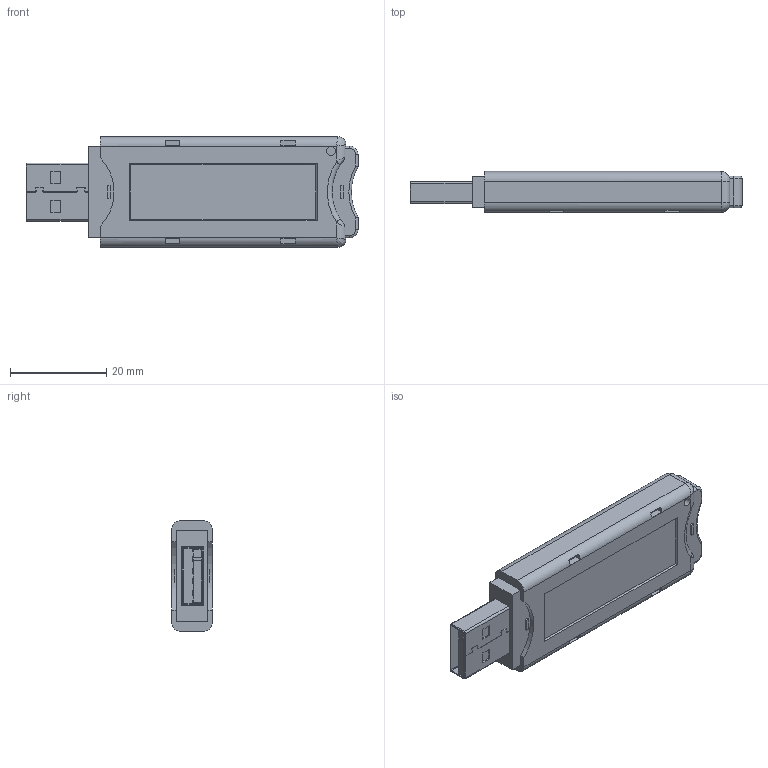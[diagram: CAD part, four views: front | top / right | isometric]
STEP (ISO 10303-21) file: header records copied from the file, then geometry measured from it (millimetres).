
FILE_DESCRIPTION(/* description */ (''),/* implementation_level */ '2;1');
FILE_NAME(/* name */ 'KNX_RF_USB_Interface_Stick_340.stp',/* time_stamp */ '2025-10-02T14:50:33+02:00',/* author */ (''),/* organization */ (''),/* preprocessor_version */ 'ST-DEVELOPER v17.2',/* originating_system */ 'Autodesk Inventor 2019',/* authorisation */ '');
FILE_SCHEMA (('AUTOMOTIVE_DESIGN { 1 0 10303 214 3 1 1 }'));
Length unit declared in the file: millimetre
Products named in the file (1): KNX_RF_USB_Interface_Stick_340
Bounding box: 68.92 x 8.5 x 23 mm (x, y, z)
Volume: 10418.9 mm3; surface area: 4629.3 mm2
Topology: 1 solids, 1 shells, 287 faces, 732 edges, 461 vertices
Faces by surface type: plane 187, cylinder 69, bspline 19, torus 8, cone 4
Full cylindrical faces by diameter (mm): 1.8 x2
Entity records: 11170 total; most frequent: CARTESIAN_POINT 4189, ORIENTED_EDGE 1456, DIRECTION 1409, EDGE_CURVE 728, LINE 537, VECTOR 537, VERTEX_POINT 461, AXIS2_PLACEMENT_3D 436
